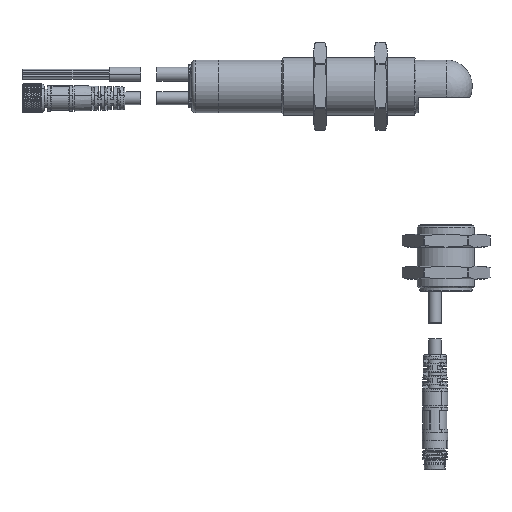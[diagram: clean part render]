
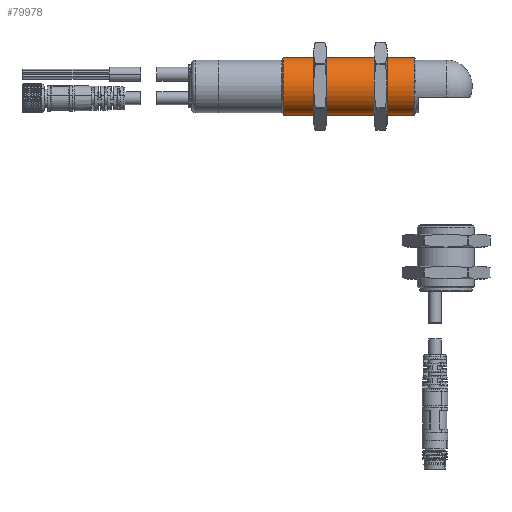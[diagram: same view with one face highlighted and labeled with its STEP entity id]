
A CAD part, top view. The second image highlights one B-rep face of the part: STEP entity #79978.
In plain terms, the highlighted cylindrical face has radius 9 mm (diameter 18 mm), a partial arc.
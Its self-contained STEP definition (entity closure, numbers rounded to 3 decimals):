
#6683 = EDGE_CURVE ( 'NONE', #10210, #93462, #123952, .T. ) ;
#10210 = VERTEX_POINT ( 'NONE', #140568 ) ;
#15727 = DIRECTION ( 'NONE',  ( 1., 0., 0. ) ) ;
#15909 = LINE ( 'NONE', #94810, #18893 ) ;
#17236 = CARTESIAN_POINT ( 'NONE',  ( -18.183, 9., 0. ) ) ;
#17381 = CARTESIAN_POINT ( 'NONE',  ( 0., 0., 0. ) ) ;
#18893 = VECTOR ( 'NONE', #61228, 1000. ) ;
#18915 = AXIS2_PLACEMENT_3D ( 'NONE', #17381, #61942, #84638 ) ;
#19492 = FACE_OUTER_BOUND ( 'NONE', #95282, .T. ) ;
#20065 = VERTEX_POINT ( 'NONE', #125179 ) ;
#20818 = ORIENTED_EDGE ( 'NONE', *, *, #108965, .F. ) ;
#25941 = CARTESIAN_POINT ( 'NONE',  ( -59.317, 0., 0. ) ) ;
#28339 = DIRECTION ( 'NONE',  ( 1., 0., 0. ) ) ;
#44712 = AXIS2_PLACEMENT_3D ( 'NONE', #25941, #15727, #103460 ) ;
#57756 = DIRECTION ( 'NONE',  ( 0., 1., 0. ) ) ;
#61228 = DIRECTION ( 'NONE',  ( 1., 0., 0. ) ) ;
#61942 = DIRECTION ( 'NONE',  ( 1., 0., 0. ) ) ;
#63826 = EDGE_CURVE ( 'NONE', #93462, #20065, #115949, .T. ) ;
#71305 = CARTESIAN_POINT ( 'NONE',  ( 0., -9., 0. ) ) ;
#73399 = AXIS2_PLACEMENT_3D ( 'NONE', #136654, #28339, #57756 ) ;
#74581 = VERTEX_POINT ( 'NONE', #17236 ) ;
#79978 = ADVANCED_FACE ( 'NONE', ( #19492 ), #122327, .T. ) ;
#81113 = ORIENTED_EDGE ( 'NONE', *, *, #63826, .T. ) ;
#84638 = DIRECTION ( 'NONE',  ( 0., 1., 0. ) ) ;
#88897 = ORIENTED_EDGE ( 'NONE', *, *, #6683, .T. ) ;
#90176 = VECTOR ( 'NONE', #125374, 1000. ) ;
#93462 = VERTEX_POINT ( 'NONE', #138004 ) ;
#94810 = CARTESIAN_POINT ( 'NONE',  ( 0., 9., 0. ) ) ;
#95282 = EDGE_LOOP ( 'NONE', ( #88897, #81113, #20818, #100901 ) ) ;
#100901 = ORIENTED_EDGE ( 'NONE', *, *, #128985, .F. ) ;
#103460 = DIRECTION ( 'NONE',  ( 0., 1., 0. ) ) ;
#108965 = EDGE_CURVE ( 'NONE', #74581, #20065, #141048, .T. ) ;
#115949 = LINE ( 'NONE', #71305, #90176 ) ;
#122327 = CYLINDRICAL_SURFACE ( 'NONE', #18915, 9. ) ;
#123952 = CIRCLE ( 'NONE', #44712, 9. ) ;
#125179 = CARTESIAN_POINT ( 'NONE',  ( -18.183, -9., 0. ) ) ;
#125374 = DIRECTION ( 'NONE',  ( 1., 0., 0. ) ) ;
#128985 = EDGE_CURVE ( 'NONE', #10210, #74581, #15909, .T. ) ;
#136654 = CARTESIAN_POINT ( 'NONE',  ( -18.183, 0., 0. ) ) ;
#138004 = CARTESIAN_POINT ( 'NONE',  ( -59.317, -9., 0. ) ) ;
#140568 = CARTESIAN_POINT ( 'NONE',  ( -59.317, 9., 0. ) ) ;
#141048 = CIRCLE ( 'NONE', #73399, 9. ) ;
